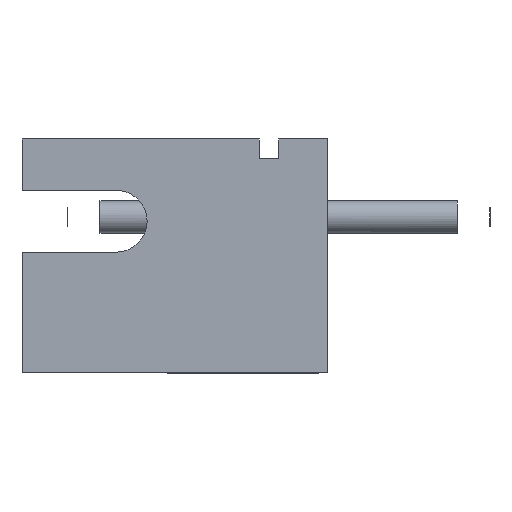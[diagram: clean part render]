
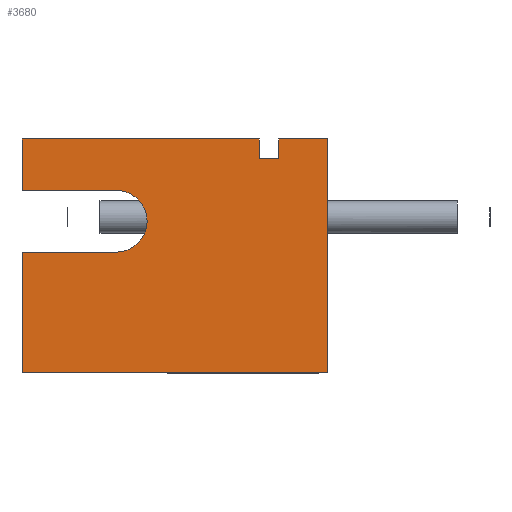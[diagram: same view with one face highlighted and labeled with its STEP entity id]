
A CAD part, left-side view. The second image highlights one B-rep face of the part: STEP entity #3680.
In plain terms, the highlighted planar face has unit normal (-1, 0, 0).
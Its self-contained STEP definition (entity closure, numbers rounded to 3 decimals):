
#110=LINE('',#5494,#492);
#111=LINE('',#5496,#493);
#112=LINE('',#5498,#494);
#113=LINE('',#5500,#495);
#114=LINE('',#5502,#496);
#115=LINE('',#5504,#497);
#116=LINE('',#5506,#498);
#117=LINE('',#5508,#499);
#118=LINE('',#5512,#500);
#119=LINE('',#5514,#501);
#120=LINE('',#5515,#502);
#492=VECTOR('',#4383,3.6);
#493=VECTOR('',#4384,0.75);
#494=VECTOR('',#4385,0.3);
#495=VECTOR('',#4386,0.3);
#496=VECTOR('',#4387,0.3);
#497=VECTOR('',#4388,3.65);
#498=VECTOR('',#4389,0.94);
#499=VECTOR('',#4390,1.45);
#500=VECTOR('',#4393,1.45);
#501=VECTOR('',#4394,1.71);
#502=VECTOR('',#4395,4.7);
#884=FACE_OUTER_BOUND('',#1088,.T.);
#1088=EDGE_LOOP('',(#2449,#2450,#2451,#2452,#2453,#2454,#2455,#2456,#2457,
#2458,#2459,#2460));
#1322=CIRCLE('',#3941,0.475);
#1498=VERTEX_POINT('',#5492);
#1499=VERTEX_POINT('',#5493);
#1500=VERTEX_POINT('',#5495);
#1501=VERTEX_POINT('',#5497);
#1502=VERTEX_POINT('',#5499);
#1503=VERTEX_POINT('',#5501);
#1504=VERTEX_POINT('',#5503);
#1505=VERTEX_POINT('',#5505);
#1506=VERTEX_POINT('',#5507);
#1507=VERTEX_POINT('',#5509);
#1508=VERTEX_POINT('',#5511);
#1509=VERTEX_POINT('',#5513);
#1871=EDGE_CURVE('',#1498,#1499,#110,.T.);
#1872=EDGE_CURVE('',#1498,#1500,#111,.T.);
#1873=EDGE_CURVE('',#1501,#1500,#112,.T.);
#1874=EDGE_CURVE('',#1502,#1501,#113,.T.);
#1875=EDGE_CURVE('',#1503,#1502,#114,.T.);
#1876=EDGE_CURVE('',#1504,#1503,#115,.T.);
#1877=EDGE_CURVE('',#1504,#1505,#116,.T.);
#1878=EDGE_CURVE('',#1506,#1505,#117,.T.);
#1879=EDGE_CURVE('',#1507,#1506,#1322,.T.);
#1880=EDGE_CURVE('',#1508,#1507,#118,.T.);
#1881=EDGE_CURVE('',#1509,#1508,#119,.T.);
#1882=EDGE_CURVE('',#1509,#1499,#120,.T.);
#2449=ORIENTED_EDGE('',*,*,#1871,.F.);
#2450=ORIENTED_EDGE('',*,*,#1872,.T.);
#2451=ORIENTED_EDGE('',*,*,#1873,.F.);
#2452=ORIENTED_EDGE('',*,*,#1874,.F.);
#2453=ORIENTED_EDGE('',*,*,#1875,.F.);
#2454=ORIENTED_EDGE('',*,*,#1876,.F.);
#2455=ORIENTED_EDGE('',*,*,#1877,.T.);
#2456=ORIENTED_EDGE('',*,*,#1878,.F.);
#2457=ORIENTED_EDGE('',*,*,#1879,.F.);
#2458=ORIENTED_EDGE('',*,*,#1880,.F.);
#2459=ORIENTED_EDGE('',*,*,#1881,.F.);
#2460=ORIENTED_EDGE('',*,*,#1882,.T.);
#3459=PLANE('',#3940);
#3680=ADVANCED_FACE('',(#884),#3459,.F.);
#3940=AXIS2_PLACEMENT_3D('',#5491,#4381,#4382);
#3941=AXIS2_PLACEMENT_3D('',#5510,#4391,#4392);
#4381=DIRECTION('center_axis',(1.,0.,0.));
#4382=DIRECTION('ref_axis',(0.,0.,-1.));
#4383=DIRECTION('',(0.,0.,-1.));
#4384=DIRECTION('',(0.,1.,0.));
#4385=DIRECTION('',(0.,0.,1.));
#4386=DIRECTION('',(0.,-1.,0.));
#4387=DIRECTION('',(0.,0.,-1.));
#4388=DIRECTION('',(0.,-1.,0.));
#4389=DIRECTION('',(0.,0.,-1.));
#4390=DIRECTION('',(0.,1.,0.));
#4391=DIRECTION('center_axis',(-1.,0.,0.));
#4392=DIRECTION('ref_axis',(0.,0.,
-1.));
#4393=DIRECTION('',(0.,-1.,0.));
#4394=DIRECTION('',(0.,0.,1.));
#4395=DIRECTION('',(0.,-1.,0.));
#5491=CARTESIAN_POINT('Origin',(-6.336,-1.479,10.5));
#5492=CARTESIAN_POINT('',(-6.336,-1.479,12.3));
#5493=CARTESIAN_POINT('',(-6.336,-1.479,8.7));
#5494=CARTESIAN_POINT('',(-6.336,-1.479,12.3));
#5495=CARTESIAN_POINT('',(-6.336,-0.729,12.3));
#5496=CARTESIAN_POINT('',(-6.336,-1.479,12.3));
#5497=CARTESIAN_POINT('',(-6.336,-0.729,12.));
#5498=CARTESIAN_POINT('',(-6.336,-0.729,12.));
#5499=CARTESIAN_POINT('',(-6.336,-0.429,12.));
#5500=CARTESIAN_POINT('',(-6.336,-0.429,12.));
#5501=CARTESIAN_POINT('',(-6.336,-0.429,12.3));
#5502=CARTESIAN_POINT('',(-6.336,-0.429,12.3));
#5503=CARTESIAN_POINT('',(-6.336,3.221,12.3));
#5504=CARTESIAN_POINT('',(-6.336,3.221,12.3));
#5505=CARTESIAN_POINT('',(-6.336,3.221,11.51));
#5506=CARTESIAN_POINT('',(-6.336,3.221,12.3));
#5507=CARTESIAN_POINT('',(-6.336,1.771,11.51));
#5508=CARTESIAN_POINT('',(-6.336,1.771,11.51));
#5509=CARTESIAN_POINT('',(-6.336,1.771,10.56));
#5510=CARTESIAN_POINT('Origin',(-6.336,1.771,11.035));
#5511=CARTESIAN_POINT('',(-6.336,3.221,10.56));
#5512=CARTESIAN_POINT('',(-6.336,3.221,10.56));
#5513=CARTESIAN_POINT('',(-6.336,3.221,8.7));
#5514=CARTESIAN_POINT('',(-6.336,3.221,8.7));
#5515=CARTESIAN_POINT('',(-6.336,3.221,8.7));
